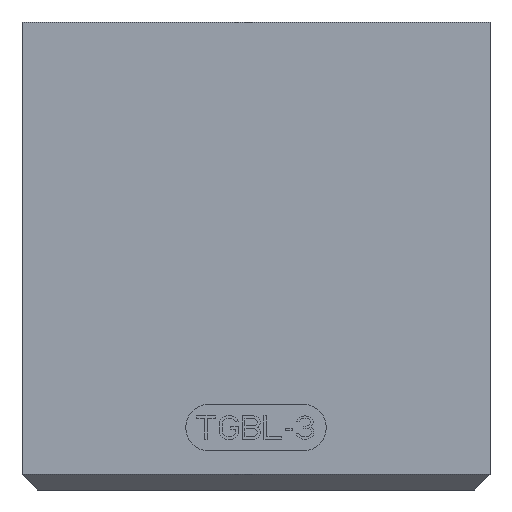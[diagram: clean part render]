
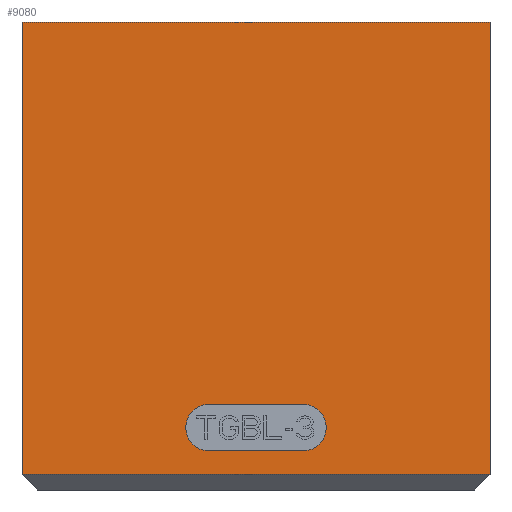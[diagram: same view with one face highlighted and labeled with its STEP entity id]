
A CAD part, front view. The second image highlights one B-rep face of the part: STEP entity #9080.
In plain terms, the highlighted planar face has unit normal (0, -1, 0).
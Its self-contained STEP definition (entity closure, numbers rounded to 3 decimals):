
#1190=DIRECTION('',(1.,0.,0.));
#1191=VECTOR('',#1190,30.);
#1192=CARTESIAN_POINT('',(-7.5,-6.,4.));
#1193=LINE('',#1192,#1191);
#1232=DIRECTION('',(0.,0.,1.));
#1233=VECTOR('',#1232,29.);
#1234=CARTESIAN_POINT('',(22.5,-6.,-25.));
#1235=LINE('',#1234,#1233);
#1363=DIRECTION('',(-1.,0.,0.));
#1364=VECTOR('',#1363,30.);
#1365=CARTESIAN_POINT('',(22.5,-6.,-25.));
#1366=LINE('',#1365,#1364);
#1370=DIRECTION('',(0.,0.,1.));
#1371=VECTOR('',#1370,29.);
#1372=CARTESIAN_POINT('',(-7.5,-6.,-25.));
#1373=LINE('',#1372,#1371);
#1377=CARTESIAN_POINT('',(4.5,-6.,-22.));
#1378=DIRECTION('',(0.,-1.,0.));
#1379=DIRECTION('',(0.,0.,1.));
#1380=AXIS2_PLACEMENT_3D('',#1377,#1378,#1379);
#1385=DIRECTION('',(1.,0.,0.));
#1386=VECTOR('',#1385,6.);
#1387=CARTESIAN_POINT('',(4.5,-6.,-23.5));
#1388=LINE('',#1387,#1386);
#1392=CARTESIAN_POINT('',(10.5,-6.,-22.));
#1393=DIRECTION('',(0.,-1.,0.));
#1394=DIRECTION('',(0.,0.,-1.));
#1395=AXIS2_PLACEMENT_3D('',#1392,#1393,#1394);
#1400=DIRECTION('',(-1.,0.,0.));
#1401=VECTOR('',#1400,6.);
#1402=CARTESIAN_POINT('',(10.5,-6.,-20.5));
#1403=LINE('',#1402,#1401);
#5413=CARTESIAN_POINT('',(-7.5,-6.,4.));
#5415=VERTEX_POINT('',#5413);
#5416=CARTESIAN_POINT('',(22.5,-6.,4.));
#5417=VERTEX_POINT('',#5416);
#5430=CARTESIAN_POINT('',(-7.5,-6.,-25.));
#5431=VERTEX_POINT('',#5430);
#5436=CARTESIAN_POINT('',(22.5,-6.,-25.));
#5437=VERTEX_POINT('',#5436);
#5468=CARTESIAN_POINT('',(4.5,-6.,-20.5));
#5469=CARTESIAN_POINT('',(4.5,-6.,-23.5));
#5470=VERTEX_POINT('',#5468);
#5471=VERTEX_POINT('',#5469);
#5472=CARTESIAN_POINT('',(10.5,-6.,-23.5));
#5473=VERTEX_POINT('',#5472);
#5474=CARTESIAN_POINT('',(10.5,-6.,-20.5));
#5475=VERTEX_POINT('',#5474);
#9059=CARTESIAN_POINT('',(-7.5,-6.,-26.));
#9060=DIRECTION('',(0.,-1.,0.));
#9061=DIRECTION('',(1.,0.,0.));
#9062=AXIS2_PLACEMENT_3D('',#9059,#9060,#9061);
#9063=PLANE('',#9062);
#9064=ORIENTED_EDGE('',*,*,#9053,.T.);
#9065=ORIENTED_EDGE('',*,*,#9028,.T.);
#9066=ORIENTED_EDGE('',*,*,#8921,.T.);
#9067=ORIENTED_EDGE('',*,*,#8940,.F.);
#9068=EDGE_LOOP('',(#9064,#9065,#9066,#9067));
#9069=FACE_OUTER_BOUND('',#9068,.F.);
#9071=ORIENTED_EDGE('',*,*,#9070,.T.);
#9073=ORIENTED_EDGE('',*,*,#9072,.T.);
#9075=ORIENTED_EDGE('',*,*,#9074,.T.);
#9077=ORIENTED_EDGE('',*,*,#9076,.T.);
#9078=EDGE_LOOP('',(#9071,#9073,#9075,#9077));
#9079=FACE_BOUND('',#9078,.F.);
#1381=CIRCLE('',#1380,1.5);
#1396=CIRCLE('',#1395,1.5);
#8921=EDGE_CURVE('',#5415,#5417,#1193,.T.);
#8940=EDGE_CURVE('',#5437,#5417,#1235,.T.);
#9028=EDGE_CURVE('',#5431,#5415,#1373,.T.);
#9053=EDGE_CURVE('',#5437,#5431,#1366,.T.);
#9070=EDGE_CURVE('',#5470,#5471,#1381,.T.);
#9072=EDGE_CURVE('',#5471,#5473,#1388,.T.);
#9074=EDGE_CURVE('',#5473,#5475,#1396,.T.);
#9076=EDGE_CURVE('',#5475,#5470,#1403,.T.);
#9080=ADVANCED_FACE('',(#9069,#9079),#9063,.T.);
